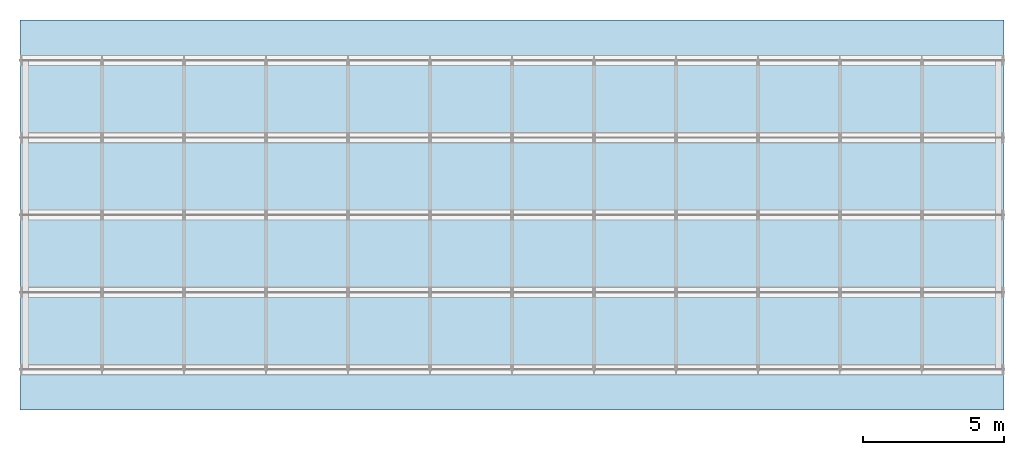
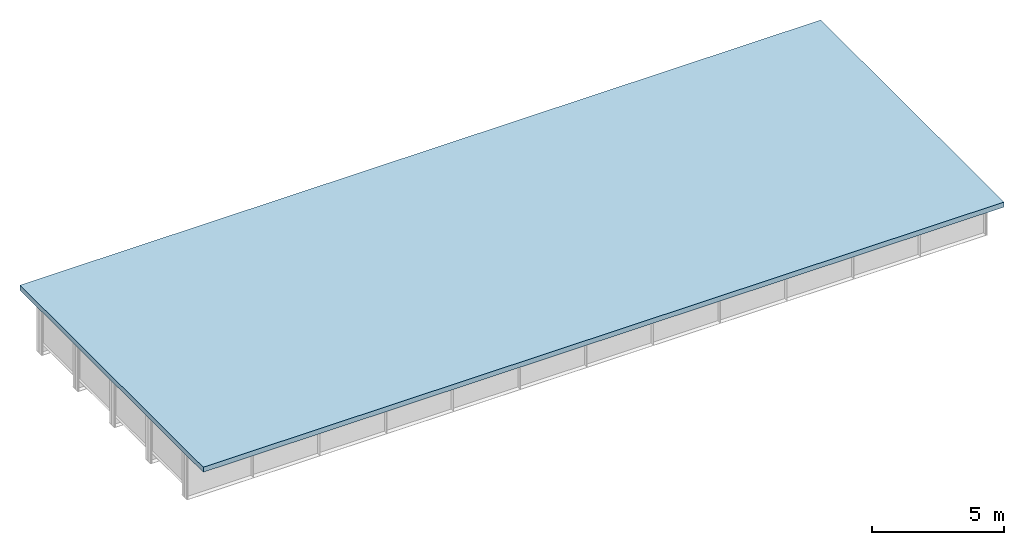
# One storey, part 11 of 17: 1 slab.
"""IFC4 building model written with IfcOpenShell, lengths in metres."""

from ifc_helpers import new_model, si_unit, frame, origin, origin_with_axes, place, context, subcontext, project, spatial, polyline, outline, extrude, element, save


model = new_model("IFC4")

# Units and contexts
model_context = context("Model", 3, precision=1e-05, world=origin())
body_context = subcontext(model_context, "Body", "Model", "MODEL_VIEW")
ifc_project = project(units=[si_unit("LENGTHUNIT", "METRE"), si_unit("AREAUNIT", "SQUARE_METRE"), si_unit("VOLUMEUNIT", "CUBIC_METRE"), si_unit("PLANEANGLEUNIT", "RADIAN")], contexts=[model_context])

# Site, building, storey
site_placement = place(None, origin_with_axes())
site = spatial("IfcSite", under=ifc_project, at=site_placement, Name="Default Site")
building_placement = place(site_placement, origin_with_axes())
building = spatial("IfcBuilding", under=site, at=building_placement, Name="Bridge Structure")
storey_placement = place(building_placement, origin_with_axes())
storey = spatial("IfcBuildingStorey", under=building, at=storey_placement, Name="Superstructure")

# Slab
slab_placement = place(storey_placement, frame((0.0, 0.0, 1.0230000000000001), z_axis=(0.0, 0.0, 1.0), x_axis=(1.0, 0.0, 0.0)))
element("IfcSlab", 1, at=slab_placement, inside=storey, Name="Deck Slab", context=body_context, shape_type="SweptSolid", body=[
    extrude(outline(polyline([(0.0, -6.9375), (35.0, -6.9375), (35.0, 6.9375), (0.0, 6.9375), (0.0, -6.9375)])), origin_with_axes(), (0.0, 0.0, 1.0), 0.23),
])

save(model, "model.ifc")
